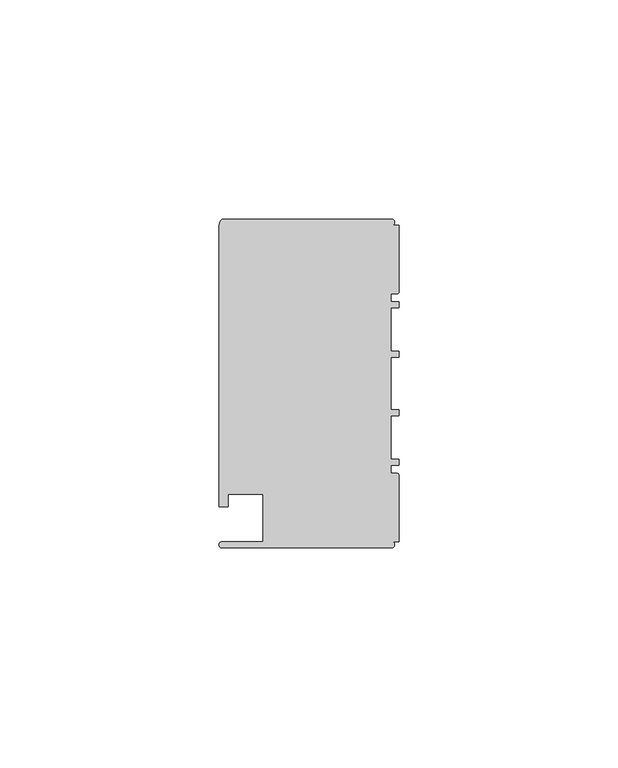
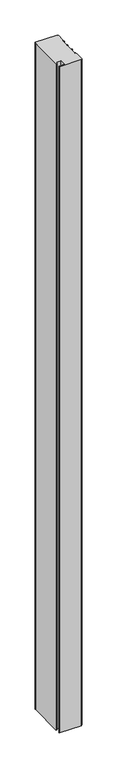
"""IFC4 building model written with IfcOpenShell, lengths in millimetres: member geometry, Прямоугольный импост : 1-AMG-1-Профиль 40Х75 Низ Л."""

from ifc_helpers import new_model, si_unit, point, frame, frame_2d, origin, place, context, project, spatial, polyline, circle_curve, trimmed, segment, composite_curve, outline, extrude, source, transform, mapped, element, save


def member_9da3e797(model_context):
    return source(origin(), model_context, "Body", "SweptSolid", [
        extrude(outline(composite_curve([segment(polyline([(-1.7, -37.5), (-40.4, -37.5)]), True, "CONTINUOUS"), segment(trimmed(circle_curve(frame_2d((-40.4, -36.8)), 0.7), [point((-40.4, -37.5))], [point((-40.4, -36.1))], False, "CARTESIAN"), True, "CONTINUOUS"), segment(polyline([(-40.4, -36.1), (-31.0, -36.1), (-31.0, -25.25), (-39.0, -25.25), (-39.0, -28.1), (-41.1, -28.1), (-41.1, 35.6)]), True, "CONTINUOUS"), segment(trimmed(circle_curve(frame_2d((-38.1714286, 35.6)), 2.9285714), [point((-41.1, 35.6))], [point((-40.4, 37.5))], False, "CARTESIAN"), True, "CONTINUOUS"), segment(polyline([(-40.4, 37.5), (-1.7, 37.5)]), True, "CONTINUOUS"), segment(trimmed(circle_curve(frame_2d((-1.7, 36.8)), 0.7), [point((-1.7, 37.5))], [point((-1.7, 36.1))], False, "CARTESIAN"), True, "CONTINUOUS"), segment(polyline([(-1.7, 36.1), (0.0, 36.1), (0.0, 20.95)]), True, "CONTINUOUS"), segment(trimmed(circle_curve(frame_2d((-0.5, 20.95)), 0.5), [point((0.0, 20.95))], [point((-0.5, 20.45))], False, "CARTESIAN"), True, "CONTINUOUS"), segment(polyline([(-0.5, 20.45), (-1.8, 20.45), (-1.8, 18.65), (0.0, 18.65), (0.0, 17.25), (-1.8, 17.25), (-1.8, 7.4), (0.0, 7.4), (0.0, 6.0), (-1.8, 6.0), (-1.8, -6.0), (0.0, -6.0), (0.0, -7.4), (-1.8, -7.4), (-1.8, -17.25), (0.0, -17.25), (0.0, -18.65), (-1.8, -18.65), (-1.8, -20.45), (-0.5, -20.45)]), True, "CONTINUOUS"), segment(trimmed(circle_curve(frame_2d((-0.5, -20.95)), 0.5), [point((-0.5, -20.45))], [point((0.0, -20.95))], False, "CARTESIAN"), True, "CONTINUOUS"), segment(polyline([(0.0, -20.95), (0.0, -36.1), (-1.7, -36.1)]), True, "CONTINUOUS"), segment(trimmed(circle_curve(frame_2d((-1.7, -36.8)), 0.7), [point((-1.7, -36.1))], [point((-1.7, -37.5))], False, "CARTESIAN"), True, "CONTINUOUS")], self_intersect=False)), frame((0.0, 0.0, -1250.0), z_axis=(0.0, 0.0, 1.0), x_axis=(1.0, 0.0, 0.0)), (0.0, 0.0, 1.0), 1250.0),
    ])


if __name__ == "__main__":
    model = new_model("IFC4")
    model_context = context("Model", 3, world=origin())
    ifc_project = project(units=[si_unit("LENGTHUNIT", "METRE", prefix="MILLI")], contexts=[model_context])
    site = spatial("IfcSite", under=ifc_project)
    building = spatial("IfcBuilding", under=site)
    placement = place(None, origin())
    member_shape = member_9da3e797(model_context)
    element("IfcMember", 1, ObjectType="Прямоугольный импост : 1-AMG-1-Профиль 40Х75 Низ Л", at=placement, inside=building, context=model_context, shape_type="MappedRepresentation", body=[
        mapped(member_shape, transform((0.0, 0.0, 0.0), x_axis=(1.0, 0.0, 0.0), y_axis=(0.0, 1.0, 0.0), z_axis=(0.0, 0.0, 1.0))),
    ])
    save(model, "model.ifc")
